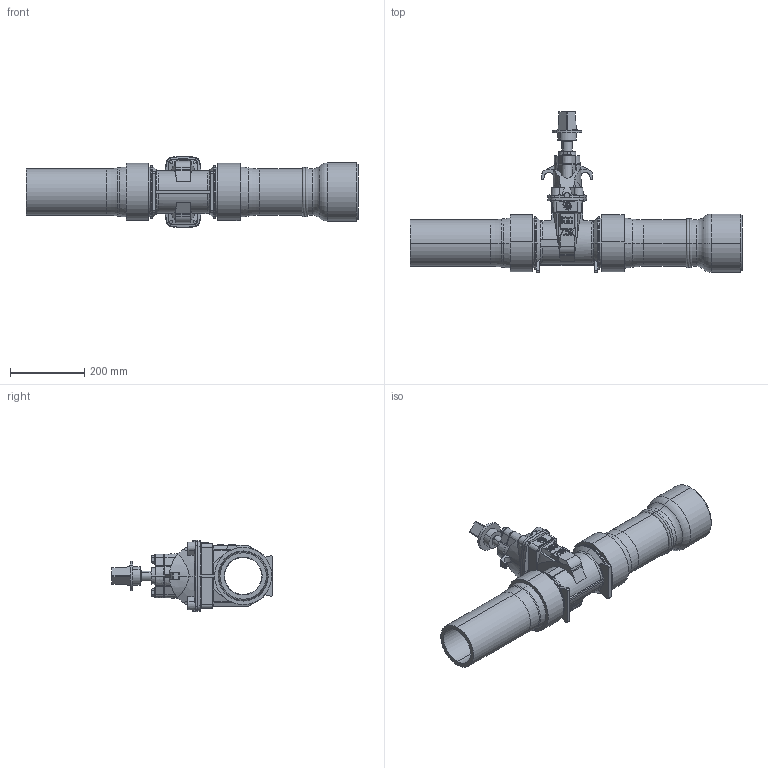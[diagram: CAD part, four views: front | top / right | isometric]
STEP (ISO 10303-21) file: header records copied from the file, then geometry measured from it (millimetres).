
FILE_DESCRIPTION (( 'STEP AP203' ), '1' );
FILE_NAME ('Y05L03101(100L).STEP', '2025-02-28T00:59:35', ( '' ), ( '' ), 'SwSTEP 2.0', 'SolidWorks 2019', '' );
FILE_SCHEMA (( 'CONFIG_CONTROL_DESIGN' ));
Length unit declared in the file: millimetre
Products named in the file (1): Y05L03101(100L)
Bounding box: 895 x 435.74 x 194 mm (x, y, z)
Volume: 7108703.7 mm3; surface area: 863270.6 mm2
Topology: 1 solids, 1 shells, 689 faces, 1782 edges, 1140 vertices
Faces by surface type: plane 348, cone 130, cylinder 120, torus 55, bspline 32, sphere 4
Entity records: 24999 total; most frequent: CARTESIAN_POINT 8526, ORIENTED_EDGE 3556, DIRECTION 3241, EDGE_CURVE 1778, VERTEX_POINT 1140, AXIS2_PLACEMENT_3D 1137, LINE 967, VECTOR 967
